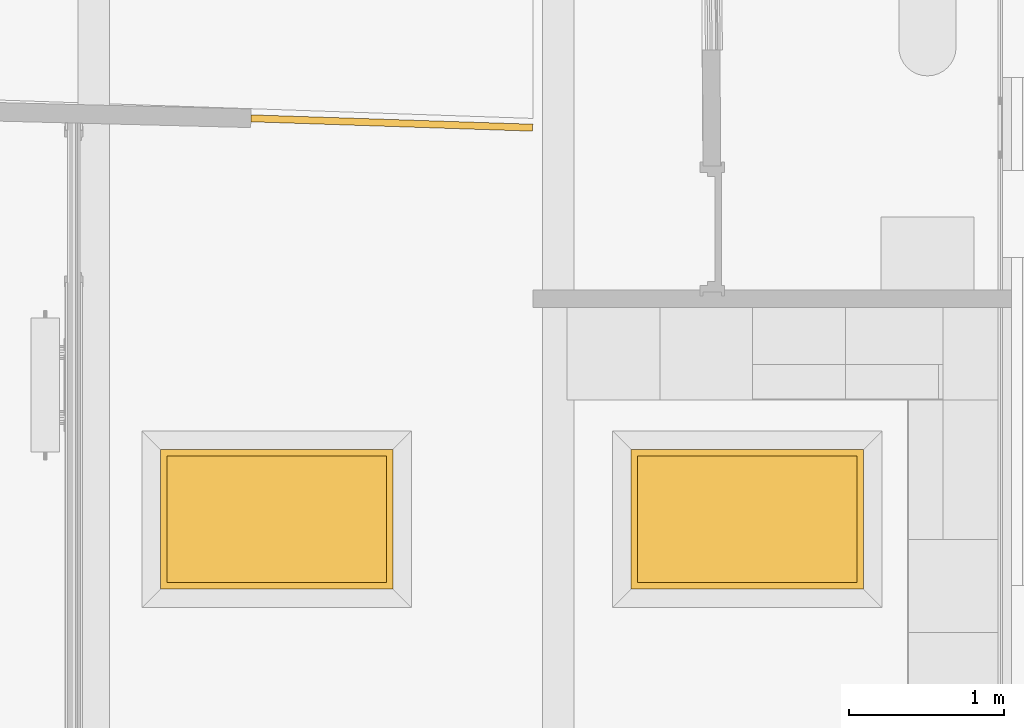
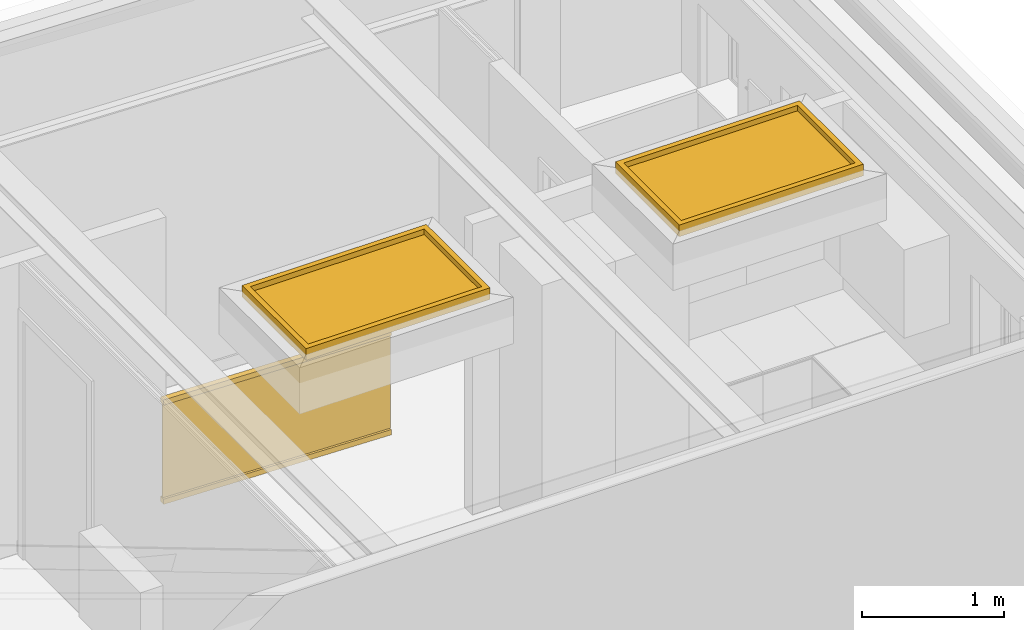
# One storey, part 12 of 23: 2 windows, 1 railing.
"""IFC2X3 building model written with IfcOpenShell, lengths in metres."""

from ifc_helpers import new_model, entity, si_unit, converted_unit, derived_unit, money_unit, direction, frame, origin_with_axes, place, context, subcontext, project, spatial, faceted_brep, material, type_object, element, save


model = new_model("IFC2X3")

# Units and contexts
model_context = context("Model", 3, precision=1e-05, world=origin_with_axes(), true_north=direction((0.0, 1.0)))
body_context = subcontext(model_context, "Body", "Model", "MODEL_VIEW", scale=1.0)
ifc_project = project(units=[si_unit("LENGTHUNIT", "METRE"), si_unit("AREAUNIT", "SQUARE_METRE"), si_unit("VOLUMEUNIT", "CUBIC_METRE"), si_unit("ABSORBEDDOSEUNIT", "GRAY"), si_unit("AMOUNTOFSUBSTANCEUNIT", "MOLE"), si_unit("DOSEEQUIVALENTUNIT", "SIEVERT"), si_unit("ELECTRICCAPACITANCEUNIT", "FARAD"), si_unit("ELECTRICCHARGEUNIT", "COULOMB"), si_unit("ELECTRICCONDUCTANCEUNIT", "SIEMENS"), si_unit("ELECTRICCURRENTUNIT", "AMPERE"), si_unit("ELECTRICRESISTANCEUNIT", "OHM"), si_unit("ELECTRICVOLTAGEUNIT", "VOLT"), si_unit("ENERGYUNIT", "JOULE"), si_unit("FORCEUNIT", "NEWTON"), si_unit("FREQUENCYUNIT", "HERTZ"), si_unit("ILLUMINANCEUNIT", "LUX"), si_unit("INDUCTANCEUNIT", "HENRY"), si_unit("LUMINOUSFLUXUNIT", "LUMEN"), si_unit("LUMINOUSINTENSITYUNIT", "CANDELA"), si_unit("MAGNETICFLUXDENSITYUNIT", "TESLA"), si_unit("MAGNETICFLUXUNIT", "WEBER"), si_unit("MASSUNIT", "GRAM"), converted_unit("PLANEANGLEUNIT", "degree", entity("IfcReal", 0.0174532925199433), si_unit("PLANEANGLEUNIT", "RADIAN"), dimensions=[0, 0, 0, 0, 0, 0, 0]), si_unit("POWERUNIT", "WATT"), si_unit("PRESSUREUNIT", "PASCAL"), si_unit("RADIOACTIVITYUNIT", "BECQUEREL"), si_unit("SOLIDANGLEUNIT", "STERADIAN"), si_unit("THERMODYNAMICTEMPERATUREUNIT", "KELVIN"), si_unit("TIMEUNIT", "SECOND"), derived_unit("ACCELERATIONUNIT", [(si_unit("LENGTHUNIT", "METRE"), 1), (si_unit("TIMEUNIT", "SECOND"), -2)]), derived_unit("ANGULARVELOCITYUNIT", [(converted_unit("PLANEANGLEUNIT", "degree", entity("IfcReal", 0.0174532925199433), si_unit("PLANEANGLEUNIT", "RADIAN"), dimensions=[0, 0, 0, 0, 0, 0, 0]), 1), (si_unit("TIMEUNIT", "SECOND"), -1)]), derived_unit("CURVATUREUNIT", [(converted_unit("PLANEANGLEUNIT", "degree", entity("IfcReal", 0.0174532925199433), si_unit("PLANEANGLEUNIT", "RADIAN"), dimensions=[0, 0, 0, 0, 0, 0, 0]), 1), (si_unit("LENGTHUNIT", "METRE"), -1)]), derived_unit("DYNAMICVISCOSITYUNIT", [(si_unit("PRESSUREUNIT", "PASCAL"), 1), (si_unit("TIMEUNIT", "SECOND"), 1)]), derived_unit("HEATFLUXDENSITYUNIT", [(si_unit("POWERUNIT", "WATT"), 1), (si_unit("LENGTHUNIT", "METRE"), -2)]), derived_unit("HEATINGVALUEUNIT", [(si_unit("ENERGYUNIT", "JOULE"), 1), (si_unit("MASSUNIT", "GRAM"), -1)]), derived_unit("INTEGERCOUNTRATEUNIT", [(si_unit("TIMEUNIT", "SECOND"), -1)]), derived_unit("IONCONCENTRATIONUNIT", [(si_unit("MASSUNIT", "GRAM"), 1), (si_unit("VOLUMEUNIT", "CUBIC_METRE"), -1)]), derived_unit("ISOTHERMALMOISTURECAPACITYUNIT", [(si_unit("VOLUMEUNIT", "CUBIC_METRE"), 1), (si_unit("MASSUNIT", "GRAM"), -1)]), derived_unit("KINEMATICVISCOSITYUNIT", [(si_unit("AREAUNIT", "SQUARE_METRE"), 1), (si_unit("TIMEUNIT", "SECOND"), -1)]), derived_unit("LINEARFORCEUNIT", [(si_unit("FORCEUNIT", "NEWTON"), 1), (si_unit("LENGTHUNIT", "METRE"), -1)]), derived_unit("LINEARMOMENTUNIT", [(si_unit("FORCEUNIT", "NEWTON"), 1), (si_unit("LENGTHUNIT", "METRE"), -1)]), derived_unit("LINEARSTIFFNESSUNIT", [(si_unit("FORCEUNIT", "NEWTON"), 1), (si_unit("LENGTHUNIT", "METRE"), -1)]), derived_unit("LINEARVELOCITYUNIT", [(si_unit("LENGTHUNIT", "METRE"), 1), (si_unit("TIMEUNIT", "SECOND"), -1)]), derived_unit("LUMINOUSINTENSITYDISTRIBUTIONUNIT", [(si_unit("LUMINOUSINTENSITYUNIT", "CANDELA"), 1), (si_unit("LUMINOUSFLUXUNIT", "LUMEN"), -1)]), derived_unit("MASSDENSITYUNIT", [(si_unit("MASSUNIT", "GRAM"), 1), (si_unit("VOLUMEUNIT", "CUBIC_METRE"), -1)]), derived_unit("MASSFLOWRATEUNIT", [(si_unit("MASSUNIT", "GRAM"), 1), (si_unit("TIMEUNIT", "SECOND"), -1)]), derived_unit("MASSPERLENGTHUNIT", [(si_unit("MASSUNIT", "GRAM"), 1), (si_unit("LENGTHUNIT", "METRE"), -1)]), derived_unit("MODULUSOFELASTICITYUNIT", [(si_unit("FORCEUNIT", "NEWTON"), 1), (si_unit("AREAUNIT", "SQUARE_METRE"), -1)]), derived_unit("MODULUSOFLINEARSUBGRADEREACTIONUNIT", [(si_unit("FORCEUNIT", "NEWTON"), 1), (si_unit("LENGTHUNIT", "METRE"), -2)]), derived_unit("MODULUSOFROTATIONALSUBGRADEREACTIONUNIT", [(si_unit("FORCEUNIT", "NEWTON"), 1), (si_unit("LENGTHUNIT", "METRE"), 1)]), derived_unit("MODULUSOFSUBGRADEREACTIONUNIT", [(si_unit("FORCEUNIT", "NEWTON"), 1), (si_unit("VOLUMEUNIT", "CUBIC_METRE"), -1)]), derived_unit("MOISTUREDIFFUSIVITYUNIT", [(si_unit("VOLUMEUNIT", "CUBIC_METRE"), 1), (si_unit("TIMEUNIT", "SECOND"), -1)]), derived_unit("MOLECULARWEIGHTUNIT", [(si_unit("MASSUNIT", "GRAM"), 1), (si_unit("AMOUNTOFSUBSTANCEUNIT", "MOLE"), -1)]), derived_unit("PLANARFORCEUNIT", [(si_unit("FORCEUNIT", "NEWTON"), 1), (si_unit("LENGTHUNIT", "METRE"), -2)]), derived_unit("ROTATIONALFREQUENCYUNIT", [(si_unit("TIMEUNIT", "SECOND"), -1)]), derived_unit("ROTATIONALMASSUNIT", [(si_unit("MASSUNIT", "GRAM"), 1), (si_unit("LENGTHUNIT", "METRE"), 2)]), derived_unit("ROTATIONALSTIFFNESSUNIT", [(si_unit("FORCEUNIT", "NEWTON"), 1), (si_unit("LENGTHUNIT", "METRE"), 1), (converted_unit("PLANEANGLEUNIT", "degree", entity("IfcReal", 0.0174532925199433), si_unit("PLANEANGLEUNIT", "RADIAN"), dimensions=[0, 0, 0, 0, 0, 0, 0]), -1)]), derived_unit("SECTIONAREAINTEGRALUNIT", [(si_unit("LENGTHUNIT", "METRE"), 5)]), derived_unit("SECTIONMODULUSUNIT", [(si_unit("LENGTHUNIT", "METRE"), 3)]), derived_unit("SHEARMODULUSUNIT", [(si_unit("FORCEUNIT", "NEWTON"), 1), (si_unit("AREAUNIT", "SQUARE_METRE"), -1)]), derived_unit("SOUNDPOWERUNIT", [(si_unit("ENERGYUNIT", "JOULE"), 1), (si_unit("TIMEUNIT", "SECOND"), -1)]), derived_unit("SPECIFICHEATCAPACITYUNIT", [(si_unit("FORCEUNIT", "NEWTON"), 1), (si_unit("MASSUNIT", "GRAM"), -1), (si_unit("THERMODYNAMICTEMPERATUREUNIT", "KELVIN"), -1)]), derived_unit("TEMPERATUREGRADIENTUNIT", [(si_unit("THERMODYNAMICTEMPERATUREUNIT", "KELVIN"), 1), (si_unit("LENGTHUNIT", "METRE"), -1)]), derived_unit("THERMALADMITTANCEUNIT", [(si_unit("POWERUNIT", "WATT"), 1), (si_unit("AREAUNIT", "SQUARE_METRE"), -1), (si_unit("THERMODYNAMICTEMPERATUREUNIT", "KELVIN"), -1)]), derived_unit("THERMALCONDUCTANCEUNIT", [(si_unit("POWERUNIT", "WATT"), 1), (si_unit("LENGTHUNIT", "METRE"), -1), (si_unit("THERMODYNAMICTEMPERATUREUNIT", "KELVIN"), -1)]), derived_unit("THERMALEXPANSIONCOEFFICIENTUNIT", [(si_unit("THERMODYNAMICTEMPERATUREUNIT", "KELVIN"), -1)]), derived_unit("THERMALRESISTANCEUNIT", [(si_unit("AREAUNIT", "SQUARE_METRE"), 1), (si_unit("POWERUNIT", "WATT"), -1)]), derived_unit("THERMALTRANSMITTANCEUNIT", [(si_unit("POWERUNIT", "WATT"), 1), (si_unit("AREAUNIT", "SQUARE_METRE"), -1), (si_unit("THERMODYNAMICTEMPERATUREUNIT", "KELVIN"), -1)]), derived_unit("TORQUEUNIT", [(si_unit("FORCEUNIT", "NEWTON"), 1), (si_unit("LENGTHUNIT", "METRE"), 1)]), derived_unit("VAPORPERMEABILITYUNIT", [(si_unit("MASSUNIT", "GRAM"), 1), (si_unit("TIMEUNIT", "SECOND"), -1)]), derived_unit("VOLUMETRICFLOWRATEUNIT", [(si_unit("VOLUMEUNIT", "CUBIC_METRE"), 1), (si_unit("TIMEUNIT", "SECOND"), -1)]), derived_unit("WARPINGCONSTANTUNIT", [(si_unit("LENGTHUNIT", "METRE"), 6)]), derived_unit("WARPINGMOMENTUNIT", [(si_unit("FORCEUNIT", "NEWTON"), 1), (si_unit("LENGTHUNIT", "METRE"), 2)]), money_unit("GBP")], contexts=[model_context])

# Site, building, storey
site_placement = place(None, origin_with_axes())
site = spatial("IfcSite", under=ifc_project, at=site_placement, Name="Site", CompositionType="ELEMENT")
building_placement = place(site_placement, origin_with_axes())
building = spatial("IfcBuilding", under=site, at=building_placement, Name="Building01", CompositionType="ELEMENT")
storey_placement = place(building_placement, frame((0.0, 0.0, 2.6), z_axis=(0.0, 0.0, 1.0), x_axis=(1.0, 0.0, 0.0)))
storey = spatial("IfcBuildingStorey", under=building, at=storey_placement, Name="MF", CompositionType="ELEMENT", Elevation=2.6)

# Windows
ifc_material_1 = material(Name="A_BSUK_Window_Frames")
window_style = type_object("IfcWindowStyle", Name="A-Fixed", ConstructionType="NOTDEFINED", OperationType="USERDEFINED", ParameterTakesPrecedence=False, Sizeable=False)
for number, where, z_axis, x_axis, name in (
    (1, (3.657414, 16.82, 3.86), (1.0, 0.0, 0.0), (0.0, 1.0, 0.0), "0.17"),
    (2, (8.197414, 17.72, 3.86), (-1.0, 0.0, 0.0), (0.0, -1.0, 0.0), "0.18"),
):
    element("IfcWindow", number, at=place(storey_placement, frame(where, z_axis=z_axis, x_axis=x_axis)), inside=storey, type_object=window_style, material=ifc_material_1, Name=name, ObjectType="A-Fixed", OverallHeight=1.50000000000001, OverallWidth=0.900000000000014, context=body_context, shape_type="Brep", body=[
        faceted_brep([(0.042, 0.1, 0.042), (0.042, 0.1, 1.458), (0.042, 0.0, 1.458), (0.042, 0.0, 0.042), (0.0, 0.0, 1.5), (0.9, 0.0, 1.5), (0.9, 0.1, 1.5), (0.0, 0.1, 1.5), (0.0, 0.0, 0.0), (0.0, 0.1, 0.0), (0.9, 0.0, 0.0), (0.9, 0.1, 0.0), (0.858, 0.1, 0.042), (0.858, 0.1, 1.458), (0.858, 0.0, 0.042), (0.858, 0.0, 1.458)], [[[0, 1, 2, 3]], [[4, 5, 6, 7]], [[8, 4, 7, 9]], [[10, 8, 9, 11]], [[5, 10, 11, 6]], [[11, 9, 7, 6], [12, 13, 1, 0]], [[12, 0, 3, 14]], [[13, 12, 14, 15]], [[1, 13, 15, 2]], [[10, 5, 4, 8], [14, 3, 2, 15]]]),
        faceted_brep([(0.042, 0.053175, 0.042), (0.042, 0.046825, 0.042), (0.042, 0.046825, 1.458), (0.042, 0.053175, 1.458), (0.858, 0.053175, 1.458), (0.858, 0.046825, 1.458), (0.858, 0.046825, 0.042), (0.858, 0.053175, 0.042)], [[[0, 1, 2, 3]], [[4, 5, 6, 7]], [[7, 6, 1, 0]], [[3, 4, 7, 0]], [[3, 2, 5, 4]], [[1, 6, 5, 2]]]),
    ])

# Railing
ifc_material_2 = material(Name="A_BSUK_Steel_Miscellaneous")
railing_type = type_object("IfcRailingType", Name="A-RailingGlassPanel-1050mm", PredefinedType="NOTDEFINED")
railing_placement = place(storey_placement, frame((4.240866, 19.860073, 0.585), z_axis=(0.0, 0.0, 1.0), x_axis=(1.0, 0.0, 0.0)))
element("IfcRailing", 3, at=railing_placement, inside=storey, type_object=railing_type, material=ifc_material_2, Name="A-RailingGlassPanel-1050mm", ObjectType="A-RailingGlassPanel-1050mm", PredefinedType="HANDRAIL", context=body_context, shape_type="Brep", body=[
    faceted_brep([(-0.00075, -0.022488, 0.9), (0.00075, 0.022488, 0.9), (0.00075, 0.022488, 0.855), (-0.00075, -0.022488, 0.855), (1.819277, -0.08315, 0.855), (1.820776, -0.038175, 0.855), (1.820776, -0.038175, 0.9), (1.819277, -0.08315, 0.9)], [[[0, 1, 2, 3]], [[4, 5, 6, 7]], [[5, 4, 3, 2]], [[6, 5, 2, 1]], [[7, 6, 1, 0]], [[7, 0, 3, 4]]]),
    faceted_brep([(-0.00075, -0.022488, 0.045), (0.00075, 0.022488, 0.045), (0.00075, 0.022488, 0.0), (-0.00075, -0.022488, 0.0), (1.819277, -0.08315, 0.0), (1.820776, -0.038175, 0.0), (1.820776, -0.038175, 0.045), (1.819277, -0.08315, 0.045)], [[[0, 1, 2, 3]], [[4, 5, 6, 7]], [[5, 4, 3, 2]], [[6, 5, 2, 1]], [[7, 6, 1, 0]], [[7, 0, 3, 4]]]),
    faceted_brep([(0.910013, -0.030331, 0.05), (0.90968, -0.040326, 0.05), (-0.000333, -0.009994, 0.05), (0.0, 0.0, 0.05), (0.910013, -0.030331, 0.85), (0.90968, -0.040326, 0.85), (0.0, 0.0, 0.85), (-0.000333, -0.009994, 0.85)], [[[0, 1, 2, 3]], [[4, 5, 1, 0]], [[6, 7, 5, 4]], [[3, 2, 7, 6]], [[1, 5, 7, 2]], [[3, 6, 4, 0]]]),
    faceted_brep([(1.820026, -0.060662, 0.05), (1.819693, -0.070657, 0.05), (0.90968, -0.040326, 0.05), (0.910013, -0.030331, 0.05), (1.820026, -0.060662, 0.85), (1.819693, -0.070657, 0.85), (0.910013, -0.030331, 0.85), (0.90968, -0.040326, 0.85)], [[[0, 1, 2, 3]], [[4, 5, 1, 0]], [[6, 7, 5, 4]], [[3, 2, 7, 6]], [[1, 5, 7, 2]], [[3, 6, 4, 0]]]),
])

save(model, "model.ifc")
